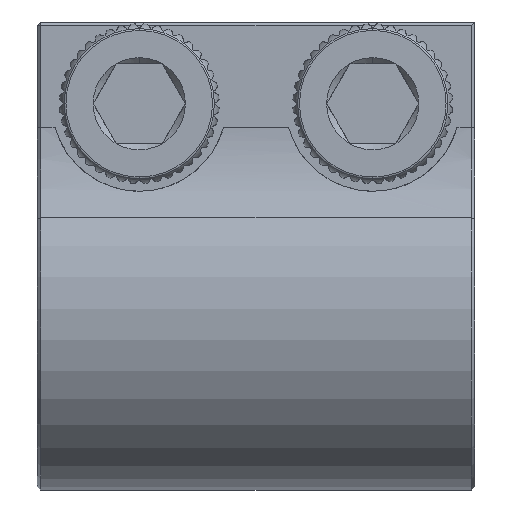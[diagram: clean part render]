
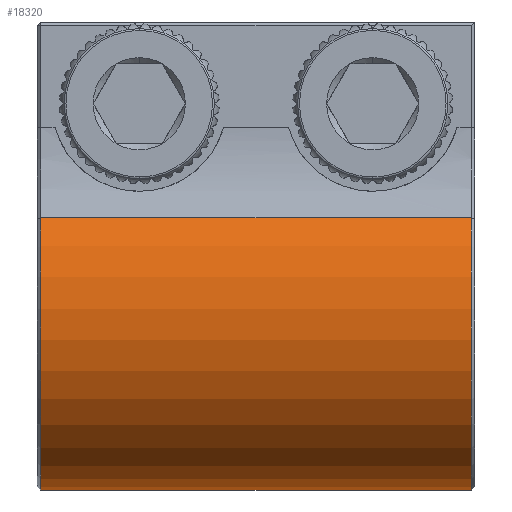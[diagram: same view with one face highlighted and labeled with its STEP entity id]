
A CAD part, left-side view. The second image highlights one B-rep face of the part: STEP entity #18320.
In plain terms, the highlighted cylindrical face has radius 6.35 mm (diameter 12.7 mm), a partial arc.
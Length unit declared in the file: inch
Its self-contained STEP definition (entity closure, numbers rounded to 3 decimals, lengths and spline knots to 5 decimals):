
#1544 = CARTESIAN_POINT ( 'NONE',  ( 0., 0.295, 0. ) ) ;
#2179 = CYLINDRICAL_SURFACE ( 'NONE', #29168, 0.25 ) ;
#2670 = CIRCLE ( 'NONE', #22115, 0.25 ) ;
#3009 = DIRECTION ( 'NONE',  ( 0., 1., 0. ) ) ;
#4400 = DIRECTION ( 'NONE',  ( 0., 0., 1. ) ) ;
#5932 = CARTESIAN_POINT ( 'NONE',  ( -0.2175, 0.3, 0.12326 ) ) ;
#7677 = VERTEX_POINT ( 'NONE', #14961 ) ;
#7893 = DIRECTION ( 'NONE',  ( 0., 0., -1. ) ) ;
#8658 = CIRCLE ( 'NONE', #16449, 0.25 ) ;
#9300 = EDGE_CURVE ( 'NONE', #7677, #43097, #26673, .T. ) ;
#9960 = CARTESIAN_POINT ( 'NONE',  ( 0., -0.295, 0. ) ) ;
#10225 = CARTESIAN_POINT ( 'NONE',  ( 0., -0.295, -0.25 ) ) ;
#11796 = CARTESIAN_POINT ( 'NONE',  ( -0.2175, -0.295, 0.12326 ) ) ;
#12442 = DIRECTION ( 'NONE',  ( 0., -1., 0. ) ) ;
#13473 = DIRECTION ( 'NONE',  ( 0., -1., 0. ) ) ;
#14164 = EDGE_CURVE ( 'NONE', #43097, #43695, #2670, .T. ) ;
#14961 = CARTESIAN_POINT ( 'NONE',  ( 0., 0.295, -0.25 ) ) ;
#15707 = ORIENTED_EDGE ( 'NONE', *, *, #9300, .T. ) ;
#16380 = LINE ( 'NONE', #5932, #39082 ) ;
#16449 = AXIS2_PLACEMENT_3D ( 'NONE', #1544, #25315, #4400 ) ;
#18320 = ADVANCED_FACE ( 'NONE', ( #43343 ), #2179, .T. ) ;
#18656 = ORIENTED_EDGE ( 'NONE', *, *, #19148, .T. ) ;
#19148 = EDGE_CURVE ( 'NONE', #41510, #7677, #8658, .T. ) ;
#21516 = ORIENTED_EDGE ( 'NONE', *, *, #14164, .T. ) ;
#22115 = AXIS2_PLACEMENT_3D ( 'NONE', #9960, #3009, #34186 ) ;
#25315 = DIRECTION ( 'NONE',  ( 0., -1., 0. ) ) ;
#26210 = CARTESIAN_POINT ( 'NONE',  ( 0., 0.3, 0. ) ) ;
#26673 = LINE ( 'NONE', #29952, #41287 ) ;
#26885 = EDGE_LOOP ( 'NONE', ( #18656, #15707, #21516, #42569 ) ) ;
#27687 = EDGE_CURVE ( 'NONE', #43695, #41510, #16380, .T. ) ;
#29168 = AXIS2_PLACEMENT_3D ( 'NONE', #26210, #12442, #7893 ) ;
#29952 = CARTESIAN_POINT ( 'NONE',  ( 0., 0.3, -0.25 ) ) ;
#30129 = DIRECTION ( 'NONE',  ( 0., 1., 0. ) ) ;
#34186 = DIRECTION ( 'NONE',  ( 0., 0., 1. ) ) ;
#37205 = CARTESIAN_POINT ( 'NONE',  ( -0.2175, 0.295, 0.12326 ) ) ;
#39082 = VECTOR ( 'NONE', #30129, 39.37008 ) ;
#41287 = VECTOR ( 'NONE', #13473, 39.37008 ) ;
#41510 = VERTEX_POINT ( 'NONE', #37205 ) ;
#42569 = ORIENTED_EDGE ( 'NONE', *, *, #27687, .T. ) ;
#43097 = VERTEX_POINT ( 'NONE', #10225 ) ;
#43343 = FACE_OUTER_BOUND ( 'NONE', #26885, .T. ) ;
#43695 = VERTEX_POINT ( 'NONE', #11796 ) ;
